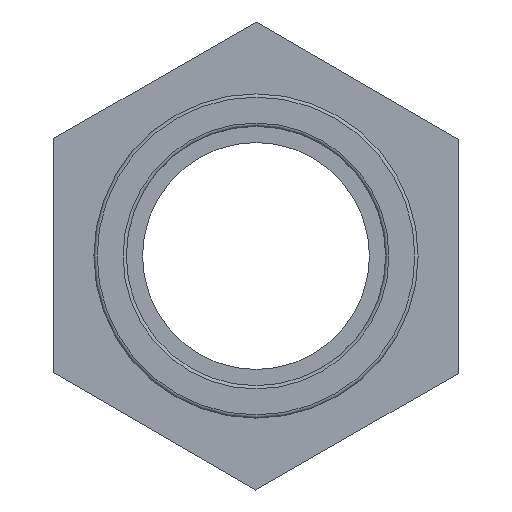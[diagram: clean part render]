
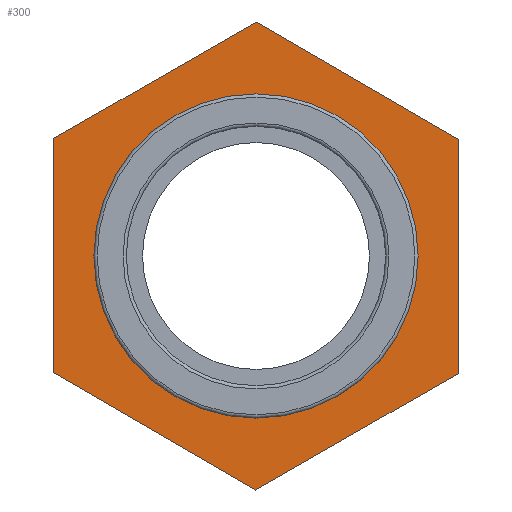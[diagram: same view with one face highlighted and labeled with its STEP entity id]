
A CAD part, left-side view. The second image highlights one B-rep face of the part: STEP entity #300.
In plain terms, the highlighted planar face has unit normal (-1, 0, 0).
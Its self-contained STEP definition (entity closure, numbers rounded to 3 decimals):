
#15=LINE('',#466,#33);
#19=LINE('',#474,#37);
#22=LINE('',#480,#40);
#25=LINE('',#487,#43);
#29=LINE('',#494,#47);
#31=LINE('',#497,#49);
#33=VECTOR('',#386,28.868);
#37=VECTOR('',#392,28.868);
#40=VECTOR('',#397,28.868);
#43=VECTOR('',#402,28.868);
#47=VECTOR('',#408,28.868);
#49=VECTOR('',#412,28.868);
#67=PLANE('',#337);
#82=FACE_BOUND('',#139,.T.);
#103=FACE_OUTER_BOUND('',#138,.T.);
#138=EDGE_LOOP('',(#269,#270,#271,#272,#273,#274));
#139=EDGE_LOOP('',(#275));
#151=CIRCLE('',#324,20.);
#165=VERTEX_POINT('',#461);
#166=VERTEX_POINT('',#464);
#167=VERTEX_POINT('',#465);
#170=VERTEX_POINT('',#473);
#172=VERTEX_POINT('',#479);
#174=VERTEX_POINT('',#485);
#175=VERTEX_POINT('',#486);
#191=EDGE_CURVE('',#165,#165,#151,.T.);
#192=EDGE_CURVE('',#166,#167,#15,.T.);
#196=EDGE_CURVE('',#167,#170,#19,.T.);
#199=EDGE_CURVE('',#170,#172,#22,.T.);
#202=EDGE_CURVE('',#174,#175,#25,.T.);
#206=EDGE_CURVE('',#175,#166,#29,.T.);
#208=EDGE_CURVE('',#172,#174,#31,.T.);
#269=ORIENTED_EDGE('',*,*,#206,.F.);
#270=ORIENTED_EDGE('',*,*,#202,.F.);
#271=ORIENTED_EDGE('',*,*,#208,.F.);
#272=ORIENTED_EDGE('',*,*,#199,.F.);
#273=ORIENTED_EDGE('',*,*,#196,.F.);
#274=ORIENTED_EDGE('',*,*,#192,.F.);
#275=ORIENTED_EDGE('',*,*,#191,.F.);
#300=ADVANCED_FACE('',(#103,#82),#67,.T.);
#324=AXIS2_PLACEMENT_3D('',#462,#382,#383);
#337=AXIS2_PLACEMENT_3D('',#507,#426,#427);
#382=DIRECTION('center_axis',(-1.,0.,0.));
#383=DIRECTION('ref_axis',(0.,0.,1.));
#386=DIRECTION('',(0.,0.003,-1.));
#392=DIRECTION('',(0.,0.867,-0.498));
#397=DIRECTION('',(0.,0.865,0.502));
#402=DIRECTION('',(0.,-0.867,0.498));
#408=DIRECTION('',(0.,-0.865,-0.502));
#412=DIRECTION('',(0.,-0.003,1.));
#426=DIRECTION('center_axis',(-1.,0.,0.));
#427=DIRECTION('ref_axis',(0.,0.,1.));
#461=CARTESIAN_POINT('',(-5.5,-20.,0.));
#462=CARTESIAN_POINT('Origin',(-5.5,0.,0.));
#464=CARTESIAN_POINT('',(-5.5,-25.04,14.365));
#465=CARTESIAN_POINT('',(-5.5,-24.96,-14.502));
#466=CARTESIAN_POINT('',(-5.5,-24.98,-7.286));
#473=CARTESIAN_POINT('',(-5.5,0.079,-28.867));
#474=CARTESIAN_POINT('',(-5.5,-6.181,-25.276));
#479=CARTESIAN_POINT('',(-5.5,25.04,-14.365));
#480=CARTESIAN_POINT('',(-5.5,18.799,-17.991));
#485=CARTESIAN_POINT('',(-5.5,24.96,14.502));
#486=CARTESIAN_POINT('',(-5.5,-0.079,28.867));
#487=CARTESIAN_POINT('',(-5.5,6.181,25.276));
#494=CARTESIAN_POINT('',(-5.5,-18.799,17.991));
#497=CARTESIAN_POINT('',(-5.5,25.,0.069));
#507=CARTESIAN_POINT('Origin',(-5.5,-20.,0.));
